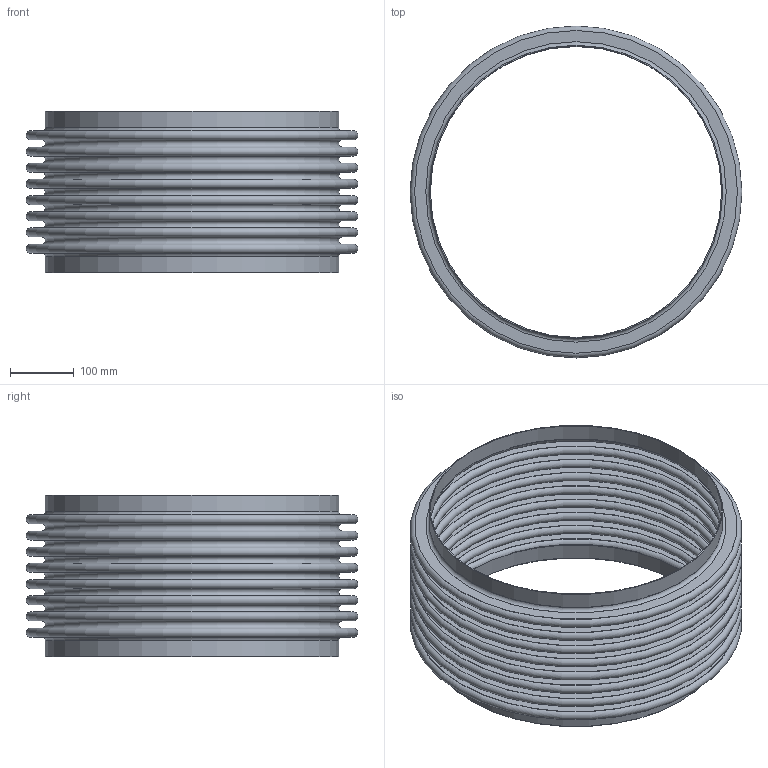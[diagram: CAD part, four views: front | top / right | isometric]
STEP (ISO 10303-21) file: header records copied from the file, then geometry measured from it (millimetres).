
FILE_DESCRIPTION(/* description */ ('STOCK BELLOWS: U.S-18-8-150S, 18.000 I.D., 20.500 O.D., 1 PLY, 16 GA (0.060 THICK), 8 CONS., 1.000 PITCH, 1.000 TANGENT. '),/* implementation_level */ '2;1');
FILE_NAME(/* name */ 'STOCK BELLOW - US-18-8-150S.stp',/* time_stamp */ '2026-07-21T13:05:30-05:00',/* author */ ('KennethB'),/* organization */ (''),/* preprocessor_version */ 'ST-DEVELOPER v20.1',/* originating_system */ 'Autodesk Inventor 2026',/* authorisation */ '');
FILE_SCHEMA (('AUTOMOTIVE_DESIGN { 1 0 10303 214 3 1 1 }'));
Length unit declared in the file: inch
Products named in the file (1): STOCK BELLOW - US-18-8-150S
Bounding box: 520.7 x 520.7 x 254 mm (x, y, z)
Volume: 1515231.6 mm3; surface area: 2001670.6 mm2
Topology: 3 solids, 3 shells, 76 faces, 114 edges, 77 vertices
Faces by surface type: plane 38, torus 34, cylinder 4
Full cylindrical faces by diameter (mm): 457.2 x2, 460.248 x2
Entity records: 1814 total; most frequent: DIRECTION 378, CARTESIAN_POINT 268, ORIENTED_EDGE 228, AXIS2_PLACEMENT_3D 187, EDGE_LOOP 114, EDGE_CURVE 114, CIRCLE 110, FACE_OUTER_BOUND 76
